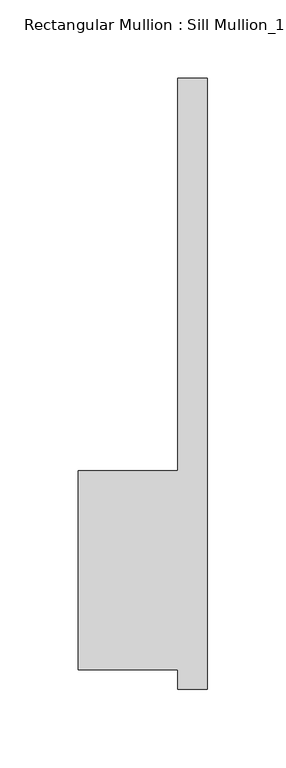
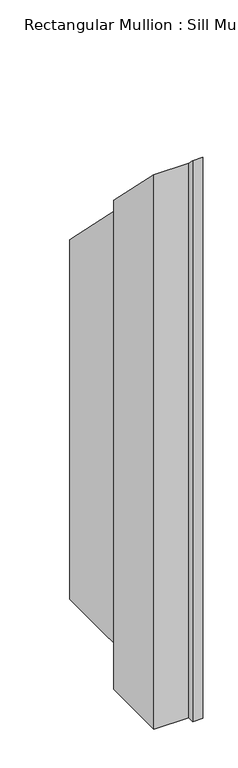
"""IFC4 building model written with IfcOpenShell, lengths in millimetres: member geometry."""

from ifc_helpers import new_model, si_unit, origin, place, context, project, spatial, faceted_brep, source, transform, mapped, element, save


def member_8a6128a0(model_context):
    return source(origin(), model_context, "Body", "Brep", [
        faceted_brep([(-82.55, 50.8, -998.3107143), (-19.05, 50.8, -998.3107143), (-19.05, 301.625, -998.3107143), (0.0, 301.625, -998.3107143), (0.0, -88.9, -998.3107143), (-19.05, -88.9, -998.3107143), (-19.05, -76.2, -998.3107143), (-82.55, -76.2, -998.3107143), (-82.55, -76.2, 76.2), (-82.55, 50.8, -50.8), (-19.05, -76.2, 76.2), (-19.05, -88.9, 88.9), (0.0, -88.9, 88.9), (0.0, 301.625, -301.625), (-19.05, 301.625, -301.625), (-19.05, 50.8, -50.8)], [[[0, 1, 2, 3, 4, 5, 6, 7]], [[8, 9, 0, 7]], [[10, 8, 7, 6]], [[11, 10, 6, 5]], [[12, 11, 5, 4]], [[13, 12, 4, 3]], [[14, 13, 3, 2]], [[15, 14, 2, 1]], [[9, 15, 1, 0]], [[9, 8, 10, 11, 12, 13, 14, 15]]]),
    ])


if __name__ == "__main__":
    model = new_model("IFC4")
    model_context = context("Model", 3, world=origin())
    ifc_project = project(units=[si_unit("LENGTHUNIT", "METRE", prefix="MILLI")], contexts=[model_context])
    site = spatial("IfcSite", under=ifc_project)
    building = spatial("IfcBuilding", under=site)
    placement = place(None, origin())
    member_shape = member_8a6128a0(model_context)
    element("IfcMember", 1, ObjectType="Rectangular Mullion : Sill Mullion_15\" thick wall", at=placement, inside=building, context=model_context, shape_type="MappedRepresentation", body=[
        mapped(member_shape, transform((0.0, 0.0, 0.0), x_axis=(1.0, 0.0, 0.0), y_axis=(0.0, 1.0, 0.0), z_axis=(0.0, 0.0, 1.0))),
    ])
    save(model, "model.ifc")
